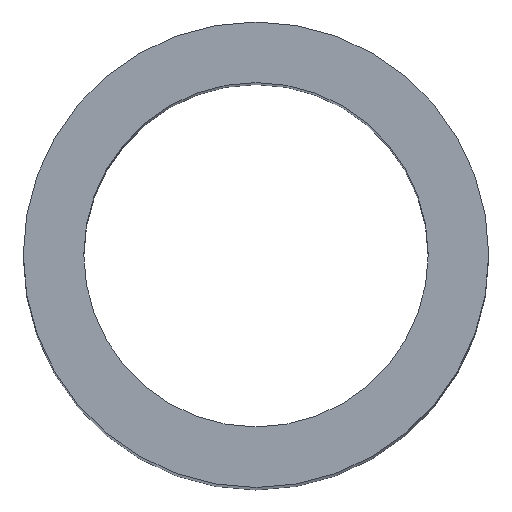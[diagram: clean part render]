
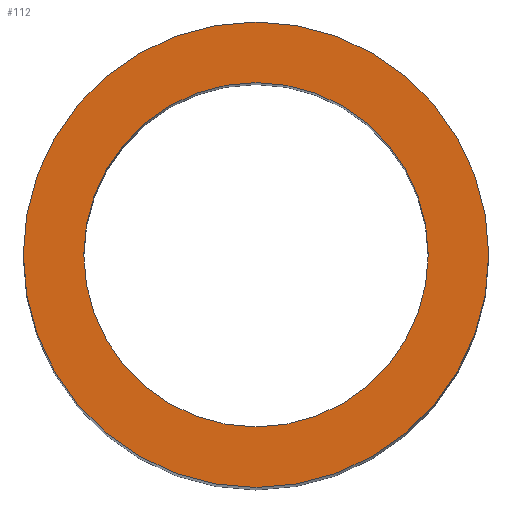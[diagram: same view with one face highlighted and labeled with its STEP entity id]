
A CAD part, top view. The second image highlights one B-rep face of the part: STEP entity #112.
In plain terms, the highlighted planar face has unit normal (0, 0, 1).
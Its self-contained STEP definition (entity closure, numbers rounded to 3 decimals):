
#39 = VERTEX_POINT ( 'NONE', #412 ) ;
#41 = EDGE_CURVE ( 'NONE', #42, #39, #417, .T. ) ;
#42 = VERTEX_POINT ( 'NONE', #408 ) ;
#48 = EDGE_CURVE ( 'NONE', #49, #78, #262, .T. ) ;
#49 = VERTEX_POINT ( 'NONE', #253 ) ;
#78 = VERTEX_POINT ( 'NONE', #294 ) ;
#90 = ORIENTED_EDGE ( 'NONE', *, *, #116, .T. ) ;
#91 = ORIENTED_EDGE ( 'NONE', *, *, #48, .T. ) ;
#92 = EDGE_LOOP ( 'NONE', ( #93, #94 ) ) ;
#93 = ORIENTED_EDGE ( 'NONE', *, *, #41, .T. ) ;
#94 = ORIENTED_EDGE ( 'NONE', *, *, #111, .T. ) ;
#111 = EDGE_CURVE ( 'NONE', #39, #42, #354, .T. ) ;
#112 = ADVANCED_FACE ( 'NONE', ( #335, #331 ), #330, .F. ) ;
#113 = EDGE_LOOP ( 'NONE', ( #90, #91 ) ) ;
#116 = EDGE_CURVE ( 'NONE', #78, #49, #348, .T. ) ;
#253 = CARTESIAN_POINT ( 'NONE',  ( 0., -12.058, 0. ) ) ;
#254 = DIRECTION ( 'NONE',  ( 0., 1., 0. ) ) ;
#255 = DIRECTION ( 'NONE',  ( 0., 0., -1. ) ) ;
#260 = CARTESIAN_POINT ( 'NONE',  ( 0., 0., 0. ) ) ;
#261 = AXIS2_PLACEMENT_3D ( 'NONE', #260, #255, #254 ) ;
#262 = CIRCLE ( 'NONE', #261, 12.058 ) ;
#294 = CARTESIAN_POINT ( 'NONE',  ( 0., 12.058, 0. ) ) ;
#330 = PLANE ( 'NONE',  #353 ) ;
#331 = FACE_OUTER_BOUND ( 'NONE', #92, .T. ) ;
#332 = DIRECTION ( 'NONE',  ( 1., 0., 0. ) ) ;
#333 = DIRECTION ( 'NONE',  ( 0., 0., 1. ) ) ;
#334 = CARTESIAN_POINT ( 'NONE',  ( 0., 0., 0. ) ) ;
#335 = FACE_BOUND ( 'NONE', #113, .T. ) ;
#343 = DIRECTION ( 'NONE',  ( 0., 1., 0. ) ) ;
#344 = DIRECTION ( 'NONE',  ( 0., 0., -1. ) ) ;
#345 = AXIS2_PLACEMENT_3D ( 'NONE', #334, #333, #332 ) ;
#346 = CARTESIAN_POINT ( 'NONE',  ( 0., 0., 0. ) ) ;
#347 = AXIS2_PLACEMENT_3D ( 'NONE', #346, #344, #343 ) ;
#348 = CIRCLE ( 'NONE', #347, 12.058 ) ;
#350 = DIRECTION ( 'NONE',  ( -1., 0., 0. ) ) ;
#351 = DIRECTION ( 'NONE',  ( 0., 0., -1. ) ) ;
#352 = CARTESIAN_POINT ( 'NONE',  ( 0., 16.3, 0. ) ) ;
#353 = AXIS2_PLACEMENT_3D ( 'NONE', #352, #351, #350 ) ;
#354 = CIRCLE ( 'NONE', #345, 16.3 ) ;
#404 = DIRECTION ( 'NONE',  ( 1., 0., 0. ) ) ;
#405 = DIRECTION ( 'NONE',  ( 0., 0., 1. ) ) ;
#406 = CARTESIAN_POINT ( 'NONE',  ( 0., 0., 0. ) ) ;
#407 = AXIS2_PLACEMENT_3D ( 'NONE', #406, #405, #404 ) ;
#408 = CARTESIAN_POINT ( 'NONE',  ( 16.3, 0., 0. ) ) ;
#412 = CARTESIAN_POINT ( 'NONE',  ( -16.3, 0., 0. ) ) ;
#417 = CIRCLE ( 'NONE', #407, 16.3 ) ;
